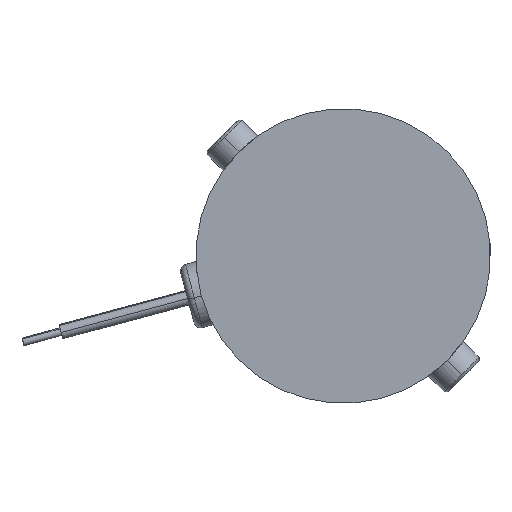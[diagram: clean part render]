
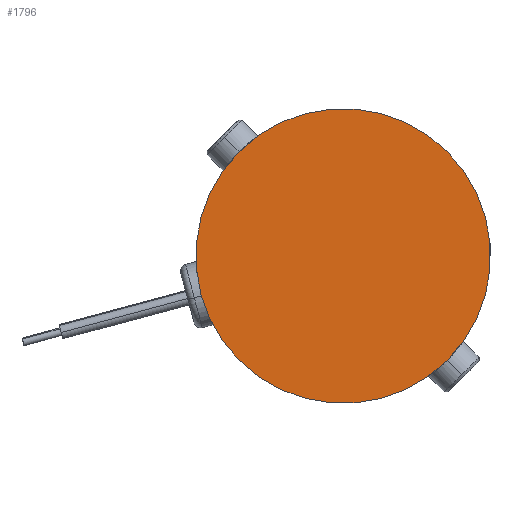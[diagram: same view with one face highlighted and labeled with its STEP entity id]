
A CAD part, left-side view. The second image highlights one B-rep face of the part: STEP entity #1796.
In plain terms, the highlighted planar face has unit normal (-1, 0, 0).
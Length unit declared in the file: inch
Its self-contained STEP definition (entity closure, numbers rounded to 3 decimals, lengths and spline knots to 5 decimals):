
#670 = AXIS2_PLACEMENT_3D ( 'NONE', #3012, #969, #1700 ) ;
#969 = DIRECTION ( 'NONE',  ( 1., 0., 0. ) ) ;
#1315 = VERTEX_POINT ( 'NONE', #2620 ) ;
#1434 = VERTEX_POINT ( 'NONE', #1824 ) ;
#1447 = DIRECTION ( 'NONE',  ( 0., -0.707, -0.707 ) ) ;
#1507 = EDGE_CURVE ( 'NONE', #1315, #1434, #3395, .T. ) ;
#1700 = DIRECTION ( 'NONE',  ( 0., -0.707, -0.707 ) ) ;
#1757 = EDGE_LOOP ( 'NONE', ( #4162, #2266 ) ) ;
#1796 = ADVANCED_FACE ( 'NONE', ( #3510 ), #2136, .F. ) ;
#1824 = CARTESIAN_POINT ( 'NONE',  ( 0., 0.7955, 0.7955 ) ) ;
#2136 = PLANE ( 'NONE',  #3381 ) ;
#2266 = ORIENTED_EDGE ( 'NONE', *, *, #1507, .F. ) ;
#2620 = CARTESIAN_POINT ( 'NONE',  ( 0., -0.7955, -0.7955 ) ) ;
#2740 = AXIS2_PLACEMENT_3D ( 'NONE', #4248, #3887, #3498 ) ;
#2826 = CARTESIAN_POINT ( 'NONE',  ( 0., 0., 0. ) ) ;
#3012 = CARTESIAN_POINT ( 'NONE',  ( 0., 0., 0. ) ) ;
#3172 = DIRECTION ( 'NONE',  ( 1., 0., 0. ) ) ;
#3381 = AXIS2_PLACEMENT_3D ( 'NONE', #2826, #3172, #1447 ) ;
#3395 = CIRCLE ( 'NONE', #670, 1.125 ) ;
#3498 = DIRECTION ( 'NONE',  ( 0., -0.707, -0.707 ) ) ;
#3510 = FACE_OUTER_BOUND ( 'NONE', #1757, .T. ) ;
#3887 = DIRECTION ( 'NONE',  ( 1., 0., 0. ) ) ;
#4162 = ORIENTED_EDGE ( 'NONE', *, *, #4395, .F. ) ;
#4248 = CARTESIAN_POINT ( 'NONE',  ( 0., 0., 0. ) ) ;
#4277 = CIRCLE ( 'NONE', #2740, 1.125 ) ;
#4395 = EDGE_CURVE ( 'NONE', #1434, #1315, #4277, .T. ) ;
